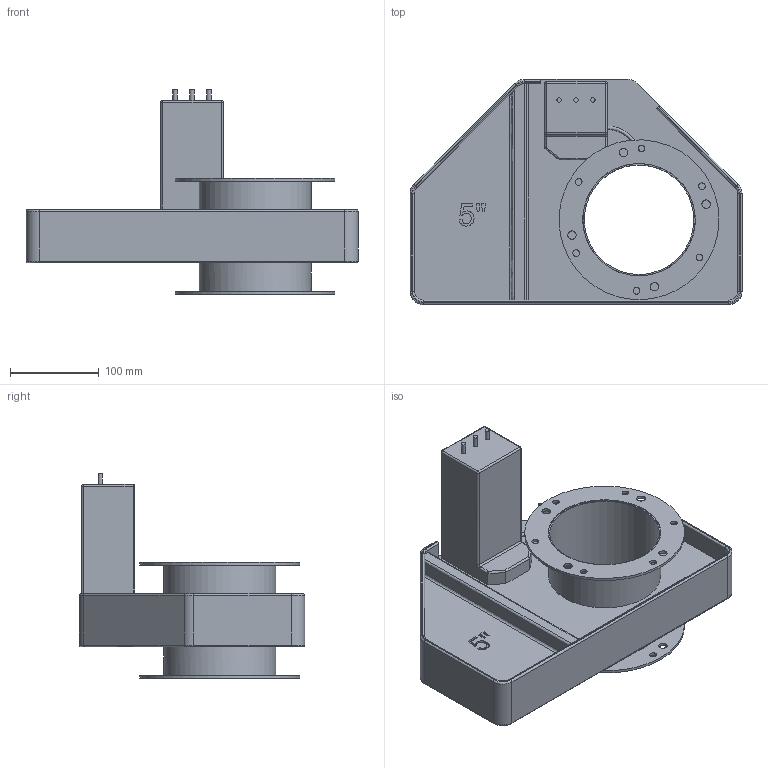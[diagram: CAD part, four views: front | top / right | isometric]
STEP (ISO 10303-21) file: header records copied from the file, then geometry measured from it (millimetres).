
FILE_DESCRIPTION( ('This file contains a STEP AP42 implementation' ,'as created by ZW3D STEP Interface translator.') ,'2;1' );
FILE_NAME( '3D Model-HO205 Body with drive.stp' ,'20 618.112316', (''), ('ZWCAD Software Co.'), 'Version 1.0', 'ZW3D to STEP translator', '' );
FILE_SCHEMA(('AUTOMOTIVE_DESIGN'));
Length unit declared in the file: millimetre
Products named in the file (1): 0
Bounding box: 373.82 x 253.57 x 230.3 mm (x, y, z)
Volume: 2001700.2 mm3; surface area: 453387.3 mm2
Topology: 4 solids, 4 shells, 619 faces, 1619 edges, 1092 vertices
Faces by surface type: bspline 619
Entity records: 20262 total; most frequent: CARTESIAN_POINT 9880, ORIENTED_EDGE 3164, EDGE_CURVE 1582, B_SPLINE_CURVE_WITH_KNOTS 1346, VERTEX_POINT 1026, EDGE_LOOP 720, FACE_OUTER_BOUND 619, ADVANCED_FACE 619
